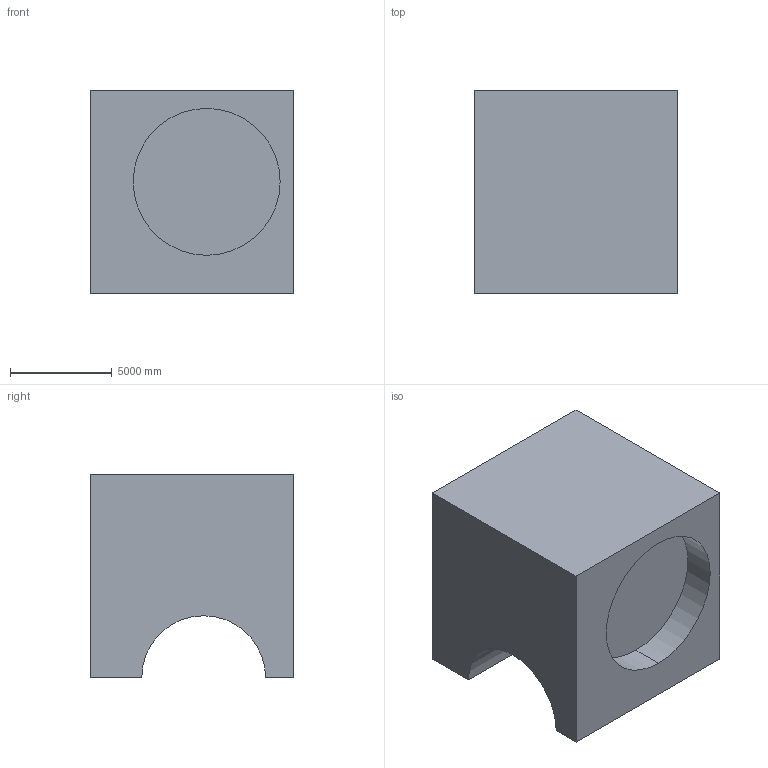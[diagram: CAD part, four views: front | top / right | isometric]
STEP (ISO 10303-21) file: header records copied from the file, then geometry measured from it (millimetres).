
FILE_DESCRIPTION (( 'STEP AP203' ), '1' );
FILE_NAME ('7.STEP', '2022-07-28T13:23:28', ( 'user' ), ( '' ), 'SwSTEP 2.0', 'SolidWorks 2021', '' );
FILE_SCHEMA (( 'CONFIG_CONTROL_DESIGN' ));
Length unit declared in the file: centimetre
Products named in the file (1): 7
Bounding box: 10000 x 10000 x 10000 mm (x, y, z)
Volume: 790685647300.4 mm3; surface area: 640794350.2 mm2
Topology: 1 solids, 1 shells, 12 faces, 27 edges, 18 vertices
Faces by surface type: plane 8, cylinder 4
Entity records: 416 total; most frequent: DIRECTION 61, CARTESIAN_POINT 58, ORIENTED_EDGE 54, EDGE_CURVE 27, AXIS2_PLACEMENT_3D 21, VECTOR 19, LINE 19, VERTEX_POINT 18
